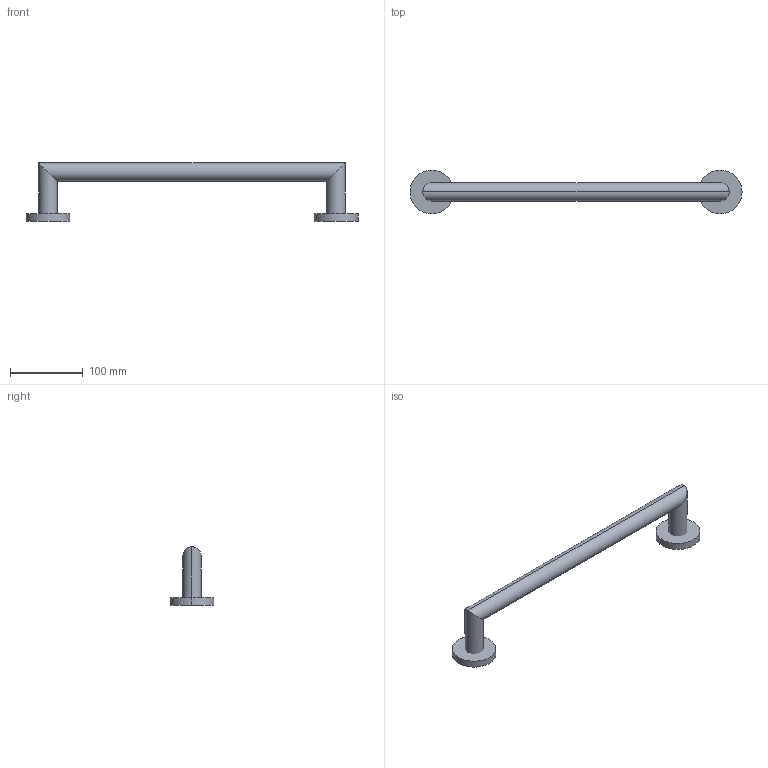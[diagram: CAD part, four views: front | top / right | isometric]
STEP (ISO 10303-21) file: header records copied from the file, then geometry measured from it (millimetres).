
FILE_DESCRIPTION(('FreeCAD Model'),'2;1');
FILE_NAME('Open CASCADE Shape Model','2024-08-10T19:04:01',('Author'),( ''),'Open CASCADE STEP processor 7.6','FreeCAD','Unknown');
FILE_SCHEMA(('AUTOMOTIVE_DESIGN { 1 0 10303 214 1 1 1 1 }'));
Length unit declared in the file: millimetre
Products named in the file (5): TopLevelAssembly; Wyciąganie003; Wyciąganie001; Wyciąganie002; Wyciągnięcie po ścieżce
Assembly tree (4 placements, depth 3):
  TopLevelAssembly
    Wyciąganie003
      Wyciąganie001
      Wyciąganie002
    Wyciągnięcie po ścieżce
Bounding box: 455 x 60 x 80 mm (x, y, z)
Volume: 316711.8 mm3; surface area: 57687.5 mm2
Topology: 3 solids, 3 shells, 16 faces, 30 edges, 20 vertices
Faces by surface type: cylinder 10, plane 6
Entity records: 524 total; most frequent: DIRECTION 92, CARTESIAN_POINT 71, ORIENTED_EDGE 60, AXIS2_PLACEMENT_3D 41, EDGE_CURVE 30, VERTEX_POINT 20, ADVANCED_FACE 16, FACE_BOUND 16
